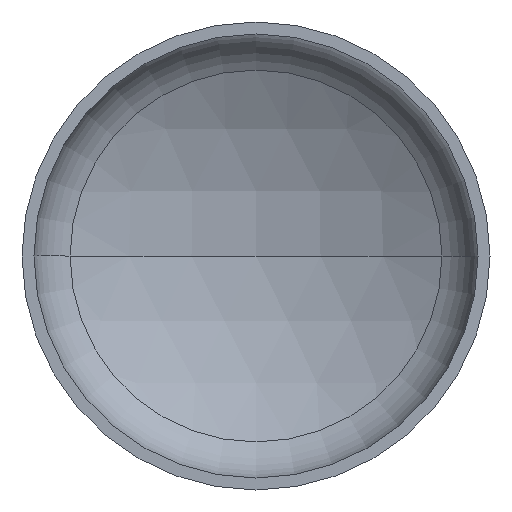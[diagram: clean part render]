
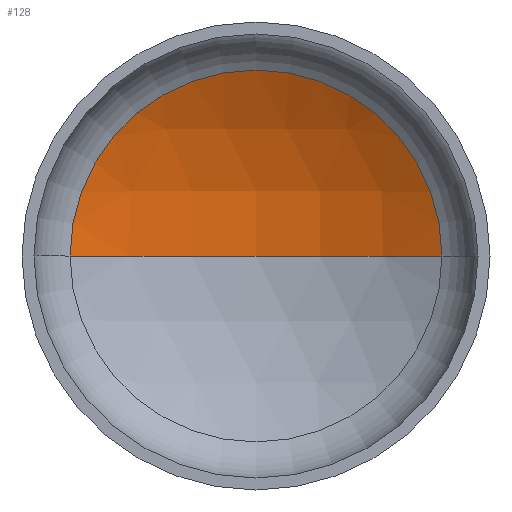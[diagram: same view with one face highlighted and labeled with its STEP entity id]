
A CAD part, front view. The second image highlights one B-rep face of the part: STEP entity #128.
In plain terms, the highlighted spherical face has radius 1280 mm.
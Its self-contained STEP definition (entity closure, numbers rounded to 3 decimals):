
#1 = VERTEX_POINT ( 'NONE', #10 ) ;
#2 = AXIS2_PLACEMENT_3D ( 'NONE', #241, #402, #269 ) ;
#10 = CARTESIAN_POINT ( 'NONE',  ( 635.671, 342.652, 0. ) ) ;
#37 = AXIS2_PLACEMENT_3D ( 'NONE', #232, #398, #263 ) ;
#44 = AXIS2_PLACEMENT_3D ( 'NONE', #353, #215, #379 ) ;
#48 = AXIS2_PLACEMENT_3D ( 'NONE', #231, #396, #261 ) ;
#57 = VERTEX_POINT ( 'NONE', #314 ) ;
#59 = VERTEX_POINT ( 'NONE', #239 ) ;
#68 = ORIENTED_EDGE ( 'NONE', *, *, #107, .T. ) ;
#107 = EDGE_CURVE ( 'NONE', #1, #57, #290, .T. ) ;
#110 = ORIENTED_EDGE ( 'NONE', *, *, #122, .T. ) ;
#114 = EDGE_LOOP ( 'NONE', ( #126, #110, #68 ) ) ;
#122 = EDGE_CURVE ( 'NONE', #59, #1, #356, .T. ) ;
#126 = ORIENTED_EDGE ( 'NONE', *, *, #352, .F. ) ;
#128 = ADVANCED_FACE ( 'NONE', ( #165 ), #407, .F. ) ;
#165 = FACE_OUTER_BOUND ( 'NONE', #114, .T. ) ;
#215 = DIRECTION ( 'NONE',  ( 0., 0., -1. ) ) ;
#231 = CARTESIAN_POINT ( 'NONE',  ( 0., 342.652, 0. ) ) ;
#232 = CARTESIAN_POINT ( 'NONE',  ( 0., -768.348, 0. ) ) ;
#239 = CARTESIAN_POINT ( 'NONE',  ( 0., 511.652, 0. ) ) ;
#241 = CARTESIAN_POINT ( 'NONE',  ( 0., -768.348, 0. ) ) ;
#261 = DIRECTION ( 'NONE',  ( 1., 0., 0. ) ) ;
#263 = DIRECTION ( 'NONE',  ( -1., 0., 0. ) ) ;
#269 = DIRECTION ( 'NONE',  ( 1., 0., 0. ) ) ;
#290 = CIRCLE ( 'NONE', #48, 635.671 ) ;
#314 = CARTESIAN_POINT ( 'NONE',  ( -635.671, 342.652, 0. ) ) ;
#315 = CIRCLE ( 'NONE', #2, 1280. ) ;
#352 = EDGE_CURVE ( 'NONE', #59, #57, #315, .T. ) ;
#353 = CARTESIAN_POINT ( 'NONE',  ( 0., -768.348, 0. ) ) ;
#356 = CIRCLE ( 'NONE', #44, 1280. ) ;
#379 = DIRECTION ( 'NONE',  ( -1., 0., 0. ) ) ;
#396 = DIRECTION ( 'NONE',  ( 0., -1., 0. ) ) ;
#398 = DIRECTION ( 'NONE',  ( 0., 0., -1. ) ) ;
#402 = DIRECTION ( 'NONE',  ( 0., 0., 1. ) ) ;
#407 = SPHERICAL_SURFACE ( 'NONE', #37, 1280. ) ;
